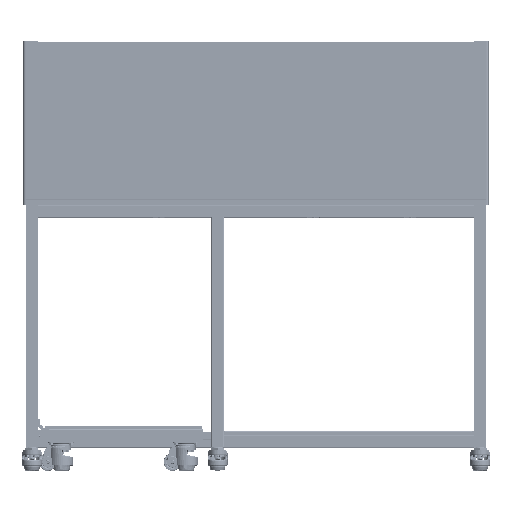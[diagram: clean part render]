
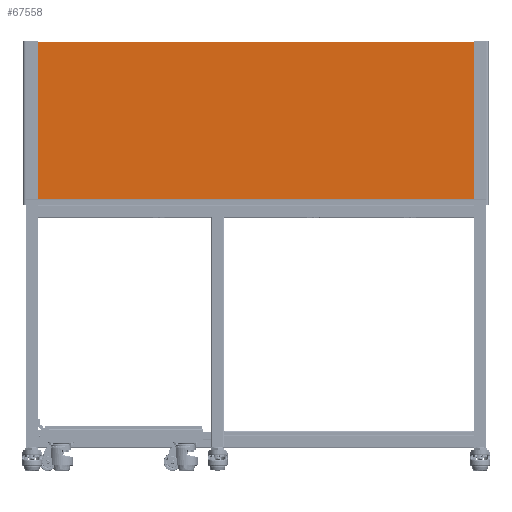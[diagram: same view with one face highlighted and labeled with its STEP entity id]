
A CAD part, top view. The second image highlights one B-rep face of the part: STEP entity #67558.
In plain terms, the highlighted planar face has unit normal (0, 0, 1) as drawn and (0, -1, 0) by its records, which use the part's own axes.
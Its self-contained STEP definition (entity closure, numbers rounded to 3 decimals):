
#5371=PLANE('',#75141);
#8952=FACE_OUTER_BOUND('',#12970,.T.);
#12970=EDGE_LOOP('',(#62552,#62553,#62554,#62555));
#18524=LINE('',#218284,#24114);
#18527=LINE('',#218290,#24117);
#18528=LINE('',#218292,#24118);
#18529=LINE('',#218293,#24119);
#24114=VECTOR('',#94097,39.37);
#24117=VECTOR('',#94102,39.37);
#24118=VECTOR('',#94103,39.37);
#24119=VECTOR('',#94104,39.37);
#33549=VERTEX_POINT('',#218281);
#33550=VERTEX_POINT('',#218283);
#33552=VERTEX_POINT('',#218289);
#33553=VERTEX_POINT('',#218291);
#43242=EDGE_CURVE('',#33550,#33549,#18524,.T.);
#43245=EDGE_CURVE('',#33549,#33552,#18527,.T.);
#43246=EDGE_CURVE('',#33553,#33552,#18528,.T.);
#43247=EDGE_CURVE('',#33550,#33553,#18529,.T.);
#62552=ORIENTED_EDGE('',*,*,#43245,.T.);
#62553=ORIENTED_EDGE('',*,*,#43246,.F.);
#62554=ORIENTED_EDGE('',*,*,#43247,.F.);
#62555=ORIENTED_EDGE('',*,*,#43242,.T.);
#67558=ADVANCED_FACE('',(#8952),#5371,.F.);
#75141=AXIS2_PLACEMENT_3D('',#218288,#94100,#94101);
#94097=DIRECTION('',(0.,0.,-1.));
#94100=DIRECTION('center_axis',(0.,1.,0.));
#94101=DIRECTION('ref_axis',(-1.,0.,0.));
#94102=DIRECTION('',(1.,0.,0.));
#94103=DIRECTION('',(0.,0.,-1.));
#94104=DIRECTION('',(1.,0.,0.));
#218281=CARTESIAN_POINT('',(-25.223,13.636,0.));
#218283=CARTESIAN_POINT('',(-25.223,13.636,22.15));
#218284=CARTESIAN_POINT('',(-25.223,13.636,22.15));
#218288=CARTESIAN_POINT('Origin',(-25.223,13.636,22.15));
#218289=CARTESIAN_POINT('',(39.32,13.636,0.));
#218290=CARTESIAN_POINT('',(-25.223,13.636,0.));
#218291=CARTESIAN_POINT('',(39.32,13.636,22.15));
#218292=CARTESIAN_POINT('',(39.32,13.636,22.15));
#218293=CARTESIAN_POINT('',(-25.223,13.636,22.15));
